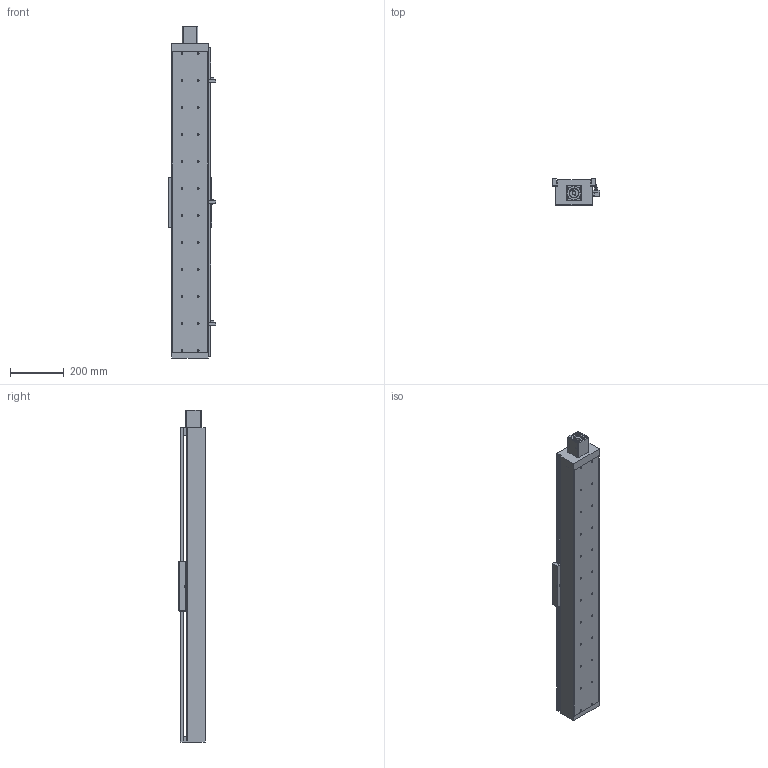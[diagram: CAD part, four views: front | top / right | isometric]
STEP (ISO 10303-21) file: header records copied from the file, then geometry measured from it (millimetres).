
FILE_DESCRIPTION((''),'2;1');
FILE_NAME('E:\libraries\UIA actuator library 2009\standard actuator\UIA136 ball screw 25\UIA136R15NDC-_ _ _-R25_ _, stp file 27Apr16\UIA136R15NDC-900-R25_ _-M60-P13-C10-S.stp','2016-04-28T17:01:19',('h029'),(''),'Autodesk Inventor 11','Autodesk Inventor 11','');
FILE_SCHEMA(('AUTOMOTIVE_DESIGN { 1 0 10303 214 1 1 1 1 }'));
Length unit declared in the file: millimetre
Products named in the file (10): UIA136R15NDC-900; UIA136R15NDC-body; motor mount F60; SOH-32C; SOH-32C-3; SOH-32C-1; SOH-32C-2; Carriage; Sensor Switch; sensor rail
Assembly tree (9 placements, depth 3):
  UIA136R15NDC-900
    UIA136R15NDC-body
    motor mount F60
    SOH-32C
      SOH-32C-3
      SOH-32C-1
      SOH-32C-2
    Carriage
    Sensor Switch
    sensor rail
Bounding box: 174.5 x 98 x 1230 mm (x, y, z)
Volume: 4609002.7 mm3; surface area: 1279930.6 mm2
Topology: 8 solids, 8 shells, 530 faces, 1385 edges, 906 vertices
Faces by surface type: plane 322, bspline 158, cylinder 46, cone 4
Full cylindrical faces by diameter (mm): 2.459 x2, 3.242 x2, 4.5 x2, 7 x4, 7.5 x2, 14 x3, 17 x1, 32 x3, 37 x1, 50.3 x1, 50.5 x1
Entity records: 17314 total; most frequent: CARTESIAN_POINT 5096, ORIENTED_EDGE 2348, DIRECTION 2304, EDGE_CURVE 1174, VERTEX_POINT 842, EDGE_LOOP 814, VECTOR 810, LINE 810
